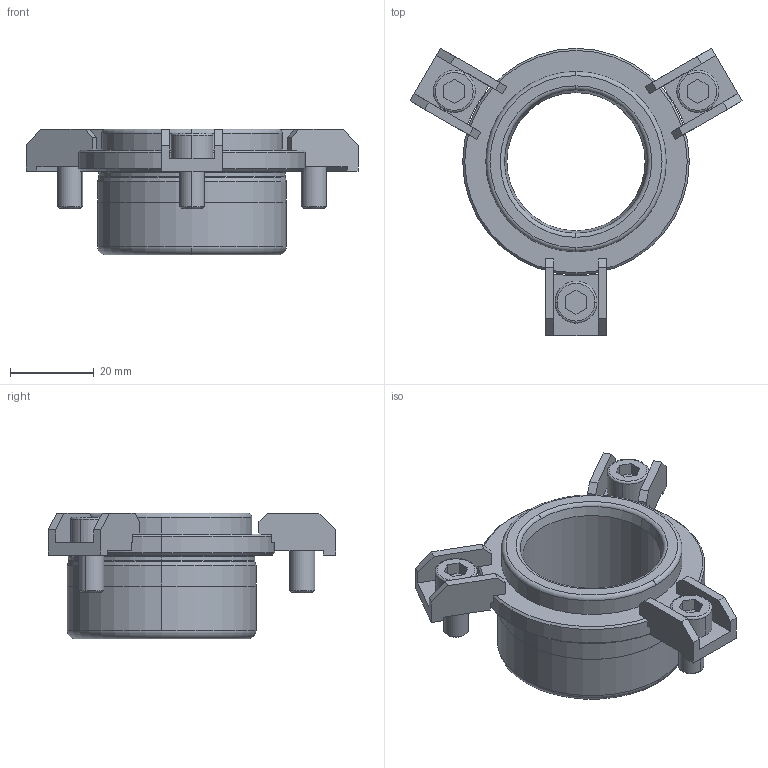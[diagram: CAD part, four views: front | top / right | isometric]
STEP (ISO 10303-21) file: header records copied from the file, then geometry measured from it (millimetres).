
FILE_DESCRIPTION((''),'2;1');
FILE_NAME('B42_025_020.stp','2008-11-04T14:21:24',(''),(''),'Mechanical Desktop 2009','Mechanical Desktop 2009',', , ');
FILE_SCHEMA(('CONFIG_CONTROL_DESIGN'));
Length unit declared in the file: millimetre
Products named in the file (2): Product; blmdl1
Assembly tree (1 placements, depth 2):
  Product
    blmdl1
Bounding box: 79.13 x 68.53 x 30 mm (x, y, z)
Volume: 29080.1 mm3; surface area: 14925 mm2
Topology: 7 solids, 7 shells, 185 faces, 474 edges, 312 vertices
Faces by surface type: plane 104, cylinder 39, cone 18, torus 14, bspline 10
Entity records: 6165 total; most frequent: CARTESIAN_POINT 1413, DIRECTION 1008, ORIENTED_EDGE 948, EDGE_CURVE 474, AXIS2_PLACEMENT_3D 357, VERTEX_POINT 312, VECTOR 294, LINE 294
